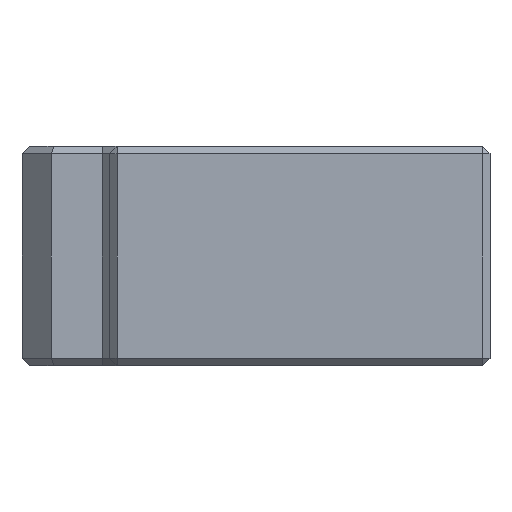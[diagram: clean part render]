
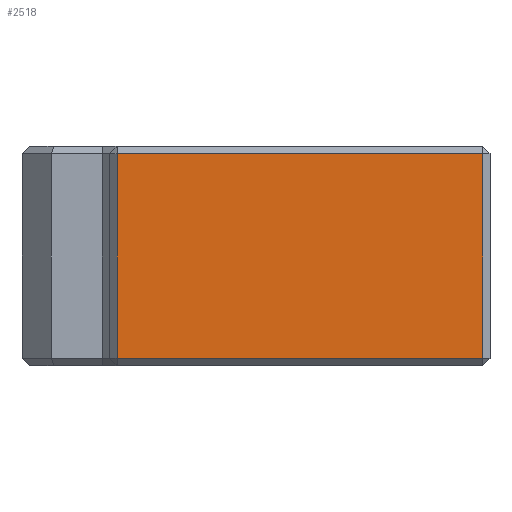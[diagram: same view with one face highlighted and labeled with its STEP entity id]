
A CAD part, left-side view. The second image highlights one B-rep face of the part: STEP entity #2518.
In plain terms, the highlighted planar face has unit normal (-1, 0, 0).
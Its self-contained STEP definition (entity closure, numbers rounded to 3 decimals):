
#70 = CARTESIAN_POINT ( 'NONE',  ( -26., -16.5, 7. ) ) ;
#183 = LINE ( 'NONE', #1965, #190 ) ;
#190 = VECTOR ( 'NONE', #1966, 1000. ) ;
#206 = VECTOR ( 'NONE', #1961, 1000. ) ;
#351 = VECTOR ( 'NONE', #1962, 1000. ) ;
#356 = LINE ( 'NONE', #1963, #421 ) ;
#366 = LINE ( 'NONE', #1960, #206 ) ;
#412 = LINE ( 'NONE', #1948, #351 ) ;
#421 = VECTOR ( 'NONE', #1964, 1000. ) ;
#427 = FACE_OUTER_BOUND ( 'NONE', #1800, .T. ) ;
#504 = VERTEX_POINT ( 'NONE', #70 ) ;
#900 = AXIS2_PLACEMENT_3D ( 'NONE', #3236, #3242, #3243 ) ;
#1355 = VERTEX_POINT ( 'NONE', #3119 ) ;
#1560 = ORIENTED_EDGE ( 'NONE', *, *, #3982, .T. ) ;
#1626 = VERTEX_POINT ( 'NONE', #3398 ) ;
#1653 = ORIENTED_EDGE ( 'NONE', *, *, #3983, .T. ) ;
#1740 = ORIENTED_EDGE ( 'NONE', *, *, #3981, .T. ) ;
#1800 = EDGE_LOOP ( 'NONE', ( #1740, #1560, #1653, #1833 ) ) ;
#1816 = VERTEX_POINT ( 'NONE', #3435 ) ;
#1833 = ORIENTED_EDGE ( 'NONE', *, *, #3984, .T. ) ;
#1948 = CARTESIAN_POINT ( 'NONE',  ( -26., -17., -7. ) ) ;
#1960 = CARTESIAN_POINT ( 'NONE',  ( -26., 8.5, 7.5 ) ) ;
#1961 = DIRECTION ( 'NONE',  ( 0., 0., -1. ) ) ;
#1962 = DIRECTION ( 'NONE',  ( 0., -1., 0. ) ) ;
#1963 = CARTESIAN_POINT ( 'NONE',  ( -26., -16.5, 7.5 ) ) ;
#1964 = DIRECTION ( 'NONE',  ( 0., 0., 1. ) ) ;
#1965 = CARTESIAN_POINT ( 'NONE',  ( -26., -17., 7. ) ) ;
#1966 = DIRECTION ( 'NONE',  ( 0., 1., 0. ) ) ;
#2518 = ADVANCED_FACE ( 'NONE', ( #427 ), #3240, .F. ) ;
#3119 = CARTESIAN_POINT ( 'NONE',  ( -26., 8.5, 7. ) ) ;
#3236 = CARTESIAN_POINT ( 'NONE',  ( -26., -17., 7.5 ) ) ;
#3240 = PLANE ( 'NONE',  #900 ) ;
#3242 = DIRECTION ( 'NONE',  ( 1., 0., 0. ) ) ;
#3243 = DIRECTION ( 'NONE',  ( 0., 1., 0. ) ) ;
#3398 = CARTESIAN_POINT ( 'NONE',  ( -26., 8.5, -7. ) ) ;
#3435 = CARTESIAN_POINT ( 'NONE',  ( -26., -16.5, -7. ) ) ;
#3981 = EDGE_CURVE ( 'NONE', #1355, #1626, #366, .T. ) ;
#3982 = EDGE_CURVE ( 'NONE', #1626, #1816, #412, .T. ) ;
#3983 = EDGE_CURVE ( 'NONE', #1816, #504, #356, .T. ) ;
#3984 = EDGE_CURVE ( 'NONE', #504, #1355, #183, .T. ) ;
